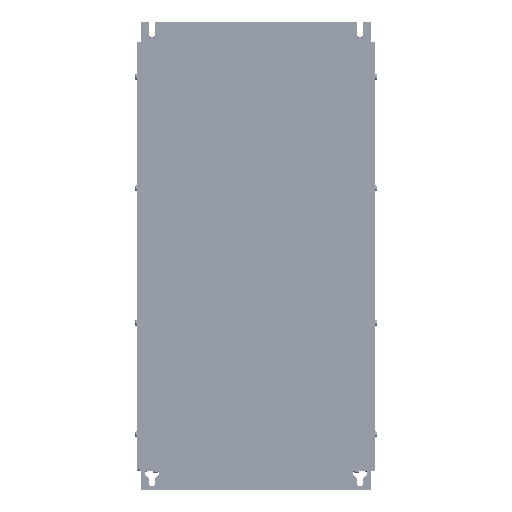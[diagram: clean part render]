
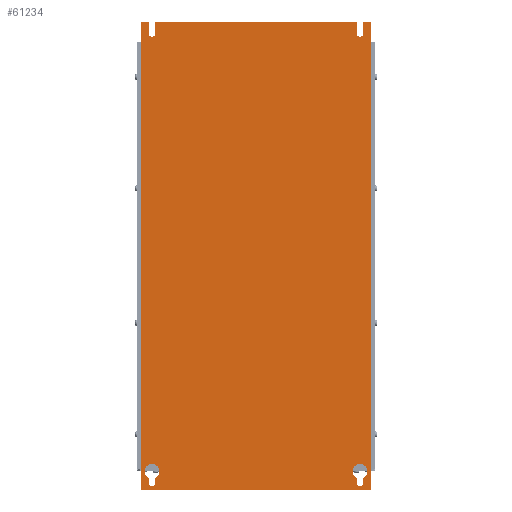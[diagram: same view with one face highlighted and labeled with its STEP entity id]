
A CAD part, front view. The second image highlights one B-rep face of the part: STEP entity #61234.
In plain terms, the highlighted planar face has unit normal (0, -1, 0).
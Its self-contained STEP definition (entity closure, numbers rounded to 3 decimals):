
#12357=DIRECTION('',(1.,0.,0.));
#12358=VECTOR('',#12357,10.5);
#12359=CARTESIAN_POINT('',(-303.,-117.,72.));
#12360=LINE('',#12359,#12358);
#12373=DIRECTION('',(0.,0.,1.));
#12374=VECTOR('',#12373,15.5);
#12375=CARTESIAN_POINT('',(-292.5,-117.,56.5));
#12376=LINE('',#12375,#12374);
#12395=DIRECTION('',(0.,0.,1.));
#12396=VECTOR('',#12395,15.5);
#12397=CARTESIAN_POINT('',(-283.5,-117.,56.5));
#12398=LINE('',#12397,#12396);
#12403=DIRECTION('',(1.,0.,0.));
#12404=VECTOR('',#12403,271.);
#12405=CARTESIAN_POINT('',(-283.5,-117.,72.));
#12406=LINE('',#12405,#12404);
#12423=DIRECTION('',(0.,0.,1.));
#12424=VECTOR('',#12423,15.5);
#12425=CARTESIAN_POINT('',(-12.5,-117.,56.5));
#12426=LINE('',#12425,#12424);
#12435=DIRECTION('',(0.,0.,-1.));
#12436=VECTOR('',#12435,630.);
#12437=CARTESIAN_POINT('',(7.,-117.,72.));
#12438=LINE('',#12437,#12436);
#12439=DIRECTION('',(-1.,0.,0.));
#12440=VECTOR('',#12439,310.);
#12441=CARTESIAN_POINT('',(7.,-117.,-558.));
#12442=LINE('',#12441,#12440);
#12443=DIRECTION('',(0.,0.,1.));
#12444=VECTOR('',#12443,630.);
#12445=CARTESIAN_POINT('',(-303.,-117.,-558.));
#12446=LINE('',#12445,#12444);
#12447=CARTESIAN_POINT('',(-288.,-117.,56.5));
#12448=DIRECTION('',(0.,1.,0.));
#12449=DIRECTION('',(1.,0.,0.));
#12450=AXIS2_PLACEMENT_3D('',#12447,#12448,#12449);
#12452=CARTESIAN_POINT('',(-8.,-117.,56.5));
#12453=DIRECTION('',(0.,1.,0.));
#12454=DIRECTION('',(1.,0.,0.));
#12455=AXIS2_PLACEMENT_3D('',#12452,#12453,#12454);
#12457=CARTESIAN_POINT('',(-288.,-117.,-533.));
#12458=DIRECTION('',(0.,1.,0.));
#12459=DIRECTION('',(-0.45,0.,-0.893));
#12460=AXIS2_PLACEMENT_3D('',#12457,#12458,#12459);
#12462=CARTESIAN_POINT('',(-288.,-117.,-548.));
#12463=DIRECTION('',(0.,1.,0.));
#12464=DIRECTION('',(1.,0.,0.));
#12465=AXIS2_PLACEMENT_3D('',#12462,#12463,#12464);
#12467=CARTESIAN_POINT('',(-8.,-117.,-533.));
#12468=DIRECTION('',(0.,1.,0.));
#12469=DIRECTION('',(-0.45,0.,-0.893));
#12470=AXIS2_PLACEMENT_3D('',#12467,#12468,#12469);
#12472=CARTESIAN_POINT('',(-8.,-117.,-548.));
#12473=DIRECTION('',(0.,1.,0.));
#12474=DIRECTION('',(1.,0.,0.));
#12475=AXIS2_PLACEMENT_3D('',#12472,#12473,#12474);
#12477=DIRECTION('',(0.,0.,1.));
#12478=VECTOR('',#12477,15.5);
#12479=CARTESIAN_POINT('',(-3.5,-117.,56.5));
#12480=LINE('',#12479,#12478);
#12489=DIRECTION('',(1.,0.,0.));
#12490=VECTOR('',#12489,10.5);
#12491=CARTESIAN_POINT('',(-3.5,-117.,72.));
#12492=LINE('',#12491,#12490);
#19949=DIRECTION('',(0.,0.,1.));
#19950=VECTOR('',#19949,6.07);
#19951=CARTESIAN_POINT('',(-3.5,-117.,-548.));
#19952=LINE('',#19951,#19950);
#19965=DIRECTION('',(0.,0.,1.));
#19966=VECTOR('',#19965,6.07);
#19967=CARTESIAN_POINT('',(-12.5,-117.,-548.));
#19968=LINE('',#19967,#19966);
#19981=DIRECTION('',(0.,0.,1.));
#19982=VECTOR('',#19981,6.07);
#19983=CARTESIAN_POINT('',(-283.5,-117.,-548.));
#19984=LINE('',#19983,#19982);
#19997=DIRECTION('',(0.,0.,1.));
#19998=VECTOR('',#19997,6.07);
#19999=CARTESIAN_POINT('',(-292.5,-117.,-548.));
#20000=LINE('',#19999,#19998);
#32909=CARTESIAN_POINT('',(-303.,-117.,-558.));
#32910=VERTEX_POINT('',#32909);
#32911=CARTESIAN_POINT('',(-303.,-117.,72.));
#32912=VERTEX_POINT('',#32911);
#36007=CARTESIAN_POINT('',(7.,-117.,-558.));
#36008=VERTEX_POINT('',#36007);
#36037=CARTESIAN_POINT('',(7.,-117.,72.));
#36038=VERTEX_POINT('',#36037);
#36053=CARTESIAN_POINT('',(-3.5,-117.,56.5));
#36054=CARTESIAN_POINT('',(-3.5,-117.,72.));
#36055=VERTEX_POINT('',#36053);
#36056=VERTEX_POINT('',#36054);
#36057=CARTESIAN_POINT('',(-12.5,-117.,56.5));
#36058=VERTEX_POINT('',#36057);
#36059=CARTESIAN_POINT('',(-12.5,-117.,72.));
#36060=VERTEX_POINT('',#36059);
#36061=CARTESIAN_POINT('',(-283.5,-117.,72.));
#36062=VERTEX_POINT('',#36061);
#36063=CARTESIAN_POINT('',(-283.5,-117.,56.5));
#36064=VERTEX_POINT('',#36063);
#36065=CARTESIAN_POINT('',(-292.5,-117.,56.5));
#36066=VERTEX_POINT('',#36065);
#36067=CARTESIAN_POINT('',(-292.5,-117.,72.));
#36068=VERTEX_POINT('',#36067);
#36069=CARTESIAN_POINT('',(-292.5,-117.,-541.93));
#36070=CARTESIAN_POINT('',(-283.5,-117.,-541.93));
#36071=VERTEX_POINT('',#36069);
#36072=VERTEX_POINT('',#36070);
#36073=CARTESIAN_POINT('',(-283.5,-117.,-548.));
#36074=VERTEX_POINT('',#36073);
#36075=CARTESIAN_POINT('',(-292.5,-117.,-548.));
#36076=VERTEX_POINT('',#36075);
#36077=CARTESIAN_POINT('',(-12.5,-117.,-541.93));
#36078=CARTESIAN_POINT('',(-3.5,-117.,-541.93));
#36079=VERTEX_POINT('',#36077);
#36080=VERTEX_POINT('',#36078);
#36081=CARTESIAN_POINT('',(-3.5,-117.,-548.));
#36082=VERTEX_POINT('',#36081);
#36083=CARTESIAN_POINT('',(-12.5,-117.,-548.));
#36084=VERTEX_POINT('',#36083);
#61191=CARTESIAN_POINT('',(-148.,-117.,-243.));
#61192=DIRECTION('',(0.,1.,0.));
#61193=DIRECTION('',(0.,0.,-1.));
#61194=AXIS2_PLACEMENT_3D('',#61191,#61192,#61193);
#61195=PLANE('',#61194);
#61197=ORIENTED_EDGE('',*,*,#61196,.T.);
#61199=ORIENTED_EDGE('',*,*,#61198,.T.);
#61200=ORIENTED_EDGE('',*,*,#46039,.T.);
#61202=ORIENTED_EDGE('',*,*,#61201,.T.);
#61203=ORIENTED_EDGE('',*,*,#61024,.T.);
#61204=ORIENTED_EDGE('',*,*,#61082,.T.);
#61205=ORIENTED_EDGE('',*,*,#61102,.F.);
#61207=ORIENTED_EDGE('',*,*,#61206,.F.);
#61208=ORIENTED_EDGE('',*,*,#61141,.T.);
#61209=ORIENTED_EDGE('',*,*,#61156,.T.);
#61210=ORIENTED_EDGE('',*,*,#61172,.F.);
#61211=ORIENTED_EDGE('',*,*,#61182,.F.);
#61212=EDGE_LOOP('',(#61197,#61199,#61200,#61202,#61203,#61204,#61205,#61207,
#61208,#61209,#61210,#61211));
#61213=FACE_OUTER_BOUND('',#61212,.F.);
#61215=ORIENTED_EDGE('',*,*,#61214,.F.);
#61217=ORIENTED_EDGE('',*,*,#61216,.F.);
#61219=ORIENTED_EDGE('',*,*,#61218,.F.);
#61221=ORIENTED_EDGE('',*,*,#61220,.T.);
#61222=EDGE_LOOP('',(#61215,#61217,#61219,#61221));
#61223=FACE_BOUND('',#61222,.F.);
#61225=ORIENTED_EDGE('',*,*,#61224,.F.);
#61227=ORIENTED_EDGE('',*,*,#61226,.F.);
#61229=ORIENTED_EDGE('',*,*,#61228,.F.);
#61231=ORIENTED_EDGE('',*,*,#61230,.T.);
#61232=EDGE_LOOP('',(#61225,#61227,#61229,#61231));
#61233=FACE_BOUND('',#61232,.F.);
#61234=ADVANCED_FACE('',(#61213,#61223,#61233),#61195,.F.);
#12451=CIRCLE('',#12450,4.5);
#12456=CIRCLE('',#12455,4.5);
#12461=CIRCLE('',#12460,10.);
#12466=CIRCLE('',#12465,4.5);
#12471=CIRCLE('',#12470,10.);
#12476=CIRCLE('',#12475,4.5);
#46039=EDGE_CURVE('',#36038,#36008,#12438,.T.);
#61024=EDGE_CURVE('',#32910,#32912,#12446,.T.);
#61082=EDGE_CURVE('',#32912,#36068,#12360,.T.);
#61102=EDGE_CURVE('',#36066,#36068,#12376,.T.);
#61141=EDGE_CURVE('',#36064,#36062,#12398,.T.);
#61156=EDGE_CURVE('',#36062,#36060,#12406,.T.);
#61172=EDGE_CURVE('',#36058,#36060,#12426,.T.);
#61182=EDGE_CURVE('',#36055,#36058,#12456,.T.);
#61196=EDGE_CURVE('',#36055,#36056,#12480,.T.);
#61198=EDGE_CURVE('',#36056,#36038,#12492,.T.);
#61201=EDGE_CURVE('',#36008,#32910,#12442,.T.);
#61206=EDGE_CURVE('',#36064,#36066,#12451,.T.);
#61214=EDGE_CURVE('',#36071,#36072,#12461,.T.);
#61216=EDGE_CURVE('',#36076,#36071,#20000,.T.);
#61218=EDGE_CURVE('',#36074,#36076,#12466,.T.);
#61220=EDGE_CURVE('',#36074,#36072,#19984,.T.);
#61224=EDGE_CURVE('',#36079,#36080,#12471,.T.);
#61226=EDGE_CURVE('',#36084,#36079,#19968,.T.);
#61228=EDGE_CURVE('',#36082,#36084,#12476,.T.);
#61230=EDGE_CURVE('',#36082,#36080,#19952,.T.);
